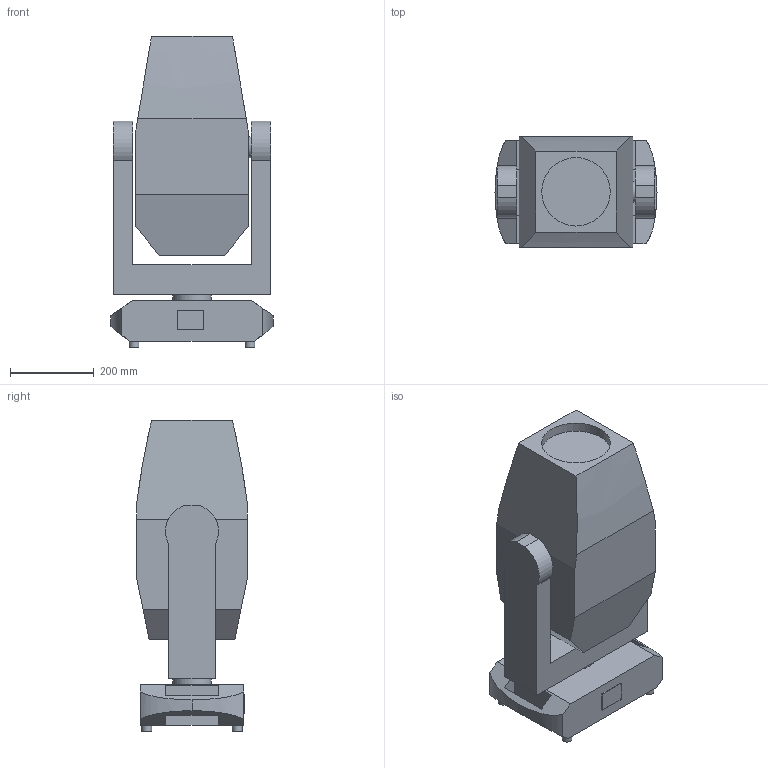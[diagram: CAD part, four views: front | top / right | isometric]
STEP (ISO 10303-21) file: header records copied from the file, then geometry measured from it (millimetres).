
FILE_DESCRIPTION(/* description */ (''),/* implementation_level */ '2;1');
FILE_NAME(/* name */ 'MAVERICK STORM 3 PROFILE_0.stp',/* time_stamp */ '2025-08-07T15:54:07-04:00',/* author */ ('chenry'),/* organization */ (''),/* preprocessor_version */ 'ST-DEVELOPER v20',/* originating_system */ 'Autodesk Inventor 2024',/* authorisation */ '');
FILE_SCHEMA (('AUTOMOTIVE_DESIGN { 1 0 10303 214 3 1 1 }'));
Length unit declared in the file: millimetre
Products named in the file (4): MIP-600_LED_PROFILE_ASM; ARM; Base; Head
Assembly tree (3 placements, depth 2):
  MIP-600_LED_PROFILE_ASM
    ARM
    Base
    Head
Bounding box: 386.28 x 263.46 x 741.6 mm (x, y, z)
Volume: 44912232.4 mm3; surface area: 1278805.8 mm2
Topology: 3 solids, 3 shells, 75 faces, 187 edges, 122 vertices
Faces by surface type: plane 56, cylinder 13, bspline 6
Full cylindrical faces by diameter (mm): 23.335 x4, 50 x2, 91 x2, 163.161 x1
Entity records: 2881 total; most frequent: CARTESIAN_POINT 923, ORIENTED_EDGE 374, DIRECTION 361, EDGE_CURVE 187, LINE 141, VECTOR 141, VERTEX_POINT 122, AXIS2_PLACEMENT_3D 110
